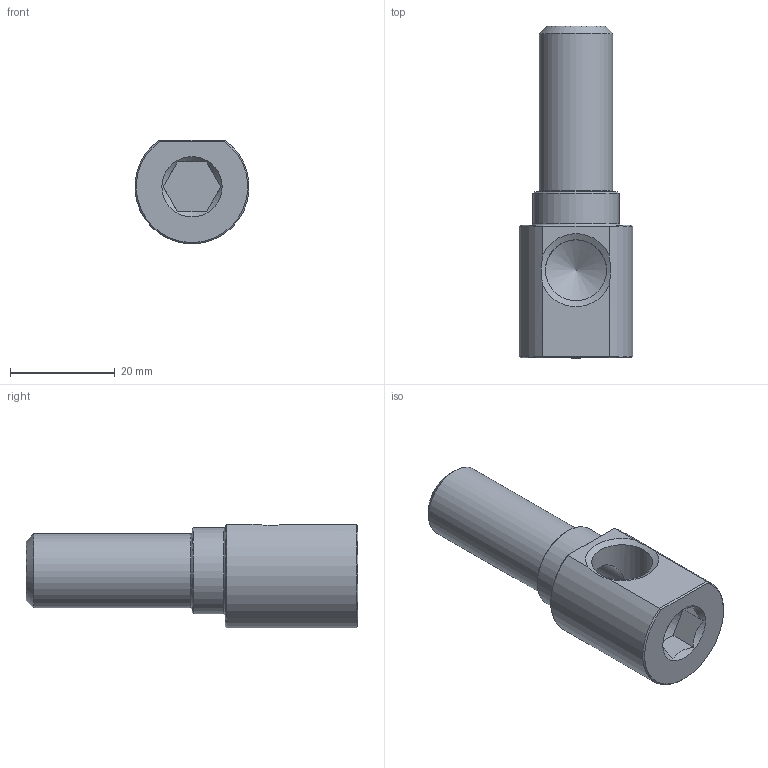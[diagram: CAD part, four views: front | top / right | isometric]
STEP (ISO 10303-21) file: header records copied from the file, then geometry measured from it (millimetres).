
FILE_DESCRIPTION(/* description */ (''),/* implementation_level */ '2;1');
FILE_NAME(/* name */ 'C:/Users/drich/Desktop/EKL14 X 2.5 v2.step',/* time_stamp */ '2019-11-18T14:32:39-06:00',/* author */ (''),/* organization */ (''),/* preprocessor_version */ 'ST-DEVELOPER v18',/* originating_system */ 'Autodesk Translation Framework v8.12.0.6',/* authorisation */ '');
FILE_SCHEMA (('AUTOMOTIVE_DESIGN { 1 0 10303 214 3 1 1 }'));
Length unit declared in the file: inch
Products named in the file (2): EKL14 X 2.5; EKL14 X 2.5_1
Assembly tree (1 placements, depth 2):
  EKL14 X 2.5
    EKL14 X 2.5_1
Bounding box: 21.77 x 63.5 x 19.77 mm (x, y, z)
Volume: 10463 mm3; surface area: 5958.5 mm2
Topology: 1 solids, 1 shells, 32 faces, 78 edges, 51 vertices
Faces by surface type: plane 16, cone 10, cylinder 6
Full cylindrical faces by diameter (mm): 8.712 x1, 11.176 x1, 11.668 x1, 14.143 x1, 16.51 x1
Entity records: 1047 total; most frequent: CARTESIAN_POINT 242, DIRECTION 159, ORIENTED_EDGE 154, EDGE_CURVE 77, AXIS2_PLACEMENT_3D 63, VERTEX_POINT 51, EDGE_LOOP 38, LINE 33
